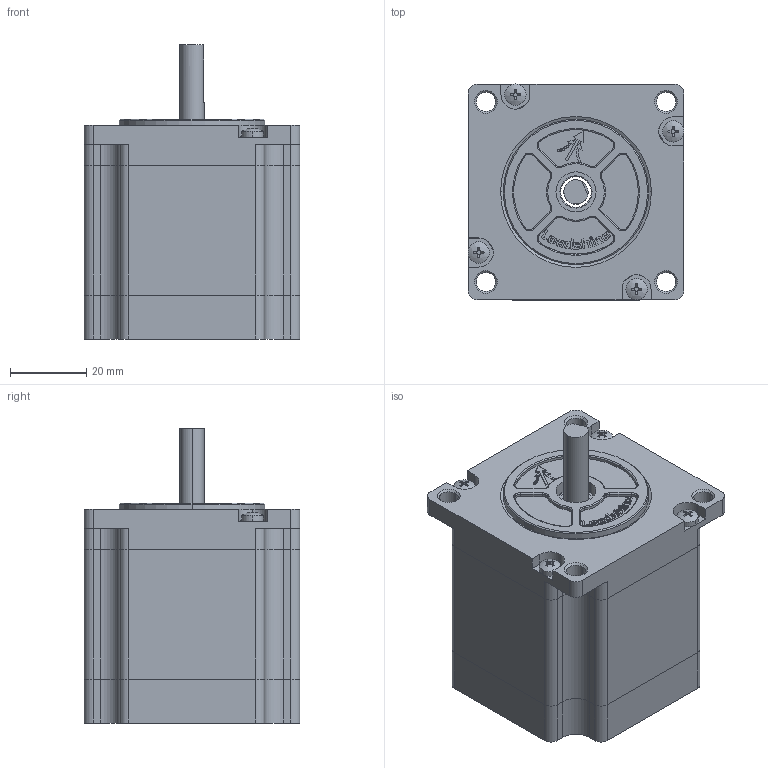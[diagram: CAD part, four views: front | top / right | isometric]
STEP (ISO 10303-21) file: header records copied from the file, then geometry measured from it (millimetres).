
FILE_DESCRIPTION (( 'STEP AP214' ), '1' );
FILE_NAME ('57CM13.STEP', '2018-02-06T09:01:45', ( 'Microsoft' ), ( 'China' ), 'SwSTEP 2.0', 'SolidWorks 2011', '' );
FILE_SCHEMA (( 'AUTOMOTIVE_DESIGN' ));
Length unit declared in the file: millimetre
Products named in the file (14): 1_2_04_680006_3_1; 3_3_1; 1_1_04_EB572-359_3_1; 1_2_05_130022_3_3; 1_2_05_130022_3_1; 1_2_05_130022_3_8; 1_2_05_130022_3_2; 1_2_05_130022_3_7; 1_2_05_130022_3_6; 1_1_02_EB571-152_3_1; 2_3_1; 1_2_05_130022_3_5; 1_2_05_130022_3_4; 57CM13
Assembly tree (13 placements, depth 2):
  57CM13
    2_3_1
    1_1_02_EB571-152_3_1
    1_2_05_130022_3_6
    1_2_05_130022_3_7
    1_2_05_130022_3_2
    1_2_05_130022_3_8
    1_2_05_130022_3_5
    1_2_05_130022_3_1
    1_2_05_130022_3_3
    1_1_04_EB572-359_3_1
    3_3_1
    1_2_04_680006_3_1
    1_2_05_130022_3_4
Bounding box: 56.54 x 56.54 x 77 mm (x, y, z)
Volume: 91849.3 mm3; surface area: 46377.9 mm2
Topology: 12 solids, 17 shells, 1447 faces, 3886 edges, 2553 vertices
Faces by surface type: plane 960, cylinder 254, bspline 152, torus 53, cone 20, sphere 8
Entity records: 67366 total; most frequent: CARTESIAN_POINT 15147, ORIENTED_EDGE 7756, DIRECTION 6826, EDGE_CURVE 3886, VECTOR 2806, LINE 2806, VERTEX_POINT 2553, AXIS2_PLACEMENT_3D 2010
